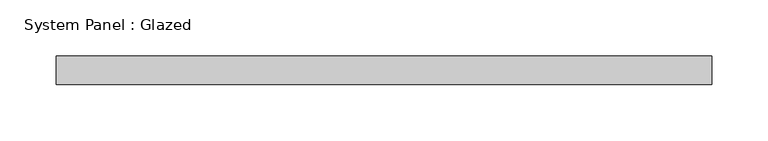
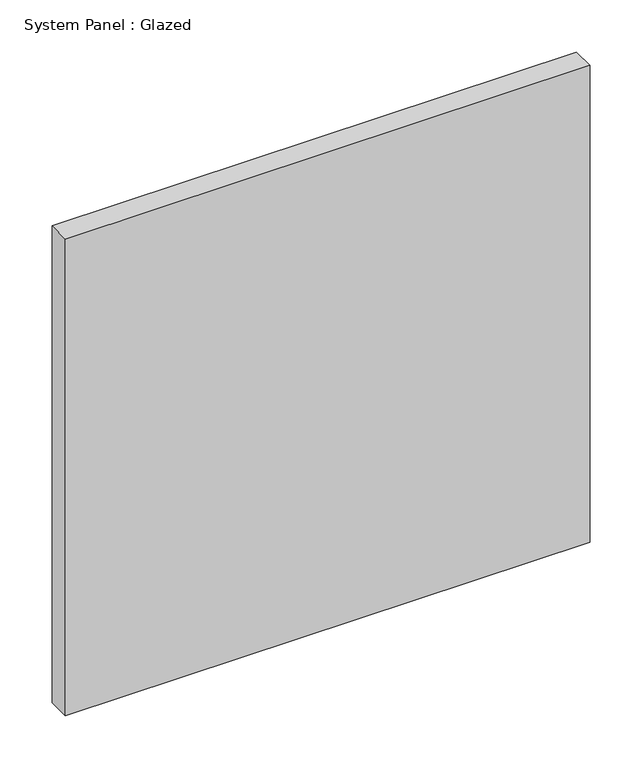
"""IFC4 building model written with IfcOpenShell, lengths in millimetres: plate geometry, System Panel : Glazed."""

from ifc_helpers import new_model, si_unit, origin, origin_with_axes, place, context, project, spatial, polyline, outline, extrude, source, transform, mapped, element, save


def system_panel_glazed_70833e41(model_context):
    return source(origin(), model_context, "Body", "SweptSolid", [
        extrude(outline(polyline([(290.83, -12.7), (-290.83, -12.7), (-290.83, 12.7), (290.83, 12.7), (290.83, -12.7)])), origin_with_axes(), (0.0, 0.0, 1.0), 558.8),
    ])


if __name__ == "__main__":
    model = new_model("IFC4")
    model_context = context("Model", 3, world=origin())
    ifc_project = project(units=[si_unit("LENGTHUNIT", "METRE", prefix="MILLI")], contexts=[model_context])
    site = spatial("IfcSite", under=ifc_project)
    building = spatial("IfcBuilding", under=site)
    placement = place(None, origin())
    system_panel_glazed_shape = system_panel_glazed_70833e41(model_context)
    element("IfcPlate", 1, ObjectType="System Panel : Glazed", at=placement, inside=building, context=model_context, shape_type="MappedRepresentation", body=[
        mapped(system_panel_glazed_shape, transform((0.0, 0.0, 0.0), x_axis=(1.0, 0.0, 0.0), y_axis=(0.0, 1.0, 0.0), z_axis=(0.0, 0.0, 1.0))),
    ])
    save(model, "model.ifc")
